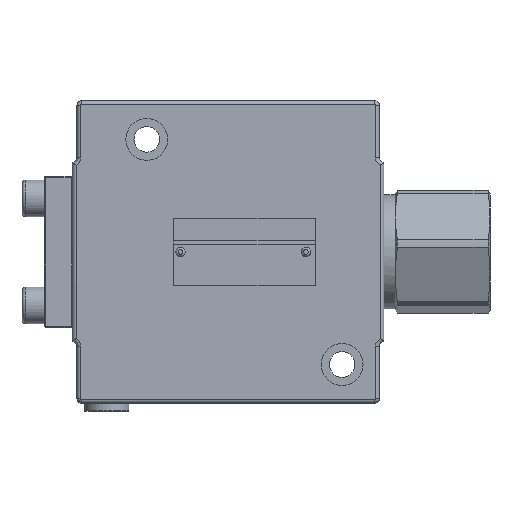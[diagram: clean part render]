
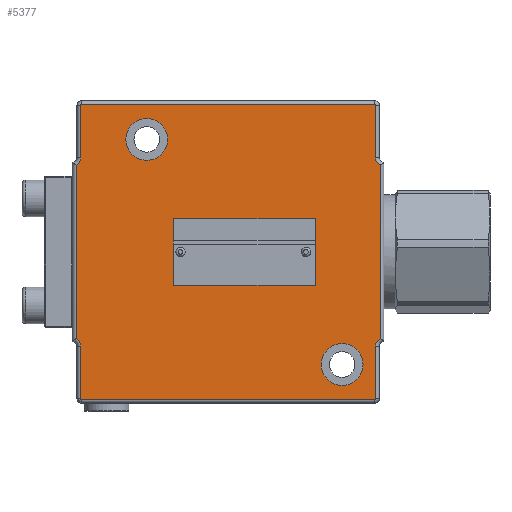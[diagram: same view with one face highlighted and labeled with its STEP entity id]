
A CAD part, front view. The second image highlights one B-rep face of the part: STEP entity #5377.
In plain terms, the highlighted planar face has unit normal (0, -1, 0).
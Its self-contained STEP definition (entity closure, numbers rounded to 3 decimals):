
#2514=LINE('',#19984,#3524);
#2515=LINE('',#19988,#3525);
#2516=LINE('',#19992,#3526);
#2517=LINE('',#19996,#3527);
#2518=LINE('',#20000,#3528);
#2519=LINE('',#20004,#3529);
#2520=LINE('',#20008,#3530);
#2521=LINE('',#20012,#3531);
#3524=VECTOR('',#14651,1.);
#3525=VECTOR('',#14654,1.);
#3526=VECTOR('',#14657,1.);
#3527=VECTOR('',#14660,1.);
#3528=VECTOR('',#14663,1.);
#3529=VECTOR('',#14666,1.);
#3530=VECTOR('',#14669,1.);
#3531=VECTOR('',#14672,1.);
#5377=ADVANCED_FACE('',(#6479,#6480,#6481,#6482,#6483),#6027,.F.);
#6027=PLANE('',#13661);
#6479=FACE_BOUND('',#6786,.T.);
#6480=FACE_BOUND('',#6787,.T.);
#6481=FACE_BOUND('',#6788,.T.);
#6482=FACE_BOUND('',#6789,.T.);
#6483=FACE_BOUND('',#6790,.T.);
#6786=EDGE_LOOP('',(#7689,#7690,#7691,#7692,#7693,#7694,#7695,#7696,#7697,
#7698,#7699,#7700,#7701,#7702,#7703,#7704));
#6787=EDGE_LOOP('',(#7705));
#6788=EDGE_LOOP('',(#7706));
#6789=EDGE_LOOP('',(#7707));
#6790=EDGE_LOOP('',(#7708));
#7689=ORIENTED_EDGE('',*,*,#11859,.T.);
#7690=ORIENTED_EDGE('',*,*,#11860,.T.);
#7691=ORIENTED_EDGE('',*,*,#11861,.T.);
#7692=ORIENTED_EDGE('',*,*,#11862,.T.);
#7693=ORIENTED_EDGE('',*,*,#11863,.T.);
#7694=ORIENTED_EDGE('',*,*,#11864,.T.);
#7695=ORIENTED_EDGE('',*,*,#11865,.T.);
#7696=ORIENTED_EDGE('',*,*,#11866,.T.);
#7697=ORIENTED_EDGE('',*,*,#11867,.T.);
#7698=ORIENTED_EDGE('',*,*,#11868,.T.);
#7699=ORIENTED_EDGE('',*,*,#11869,.T.);
#7700=ORIENTED_EDGE('',*,*,#11870,.T.);
#7701=ORIENTED_EDGE('',*,*,#11871,.T.);
#7702=ORIENTED_EDGE('',*,*,#11872,.T.);
#7703=ORIENTED_EDGE('',*,*,#11873,.T.);
#7704=ORIENTED_EDGE('',*,*,#11874,.T.);
#7705=ORIENTED_EDGE('',*,*,#11875,.T.);
#7706=ORIENTED_EDGE('',*,*,#11876,.T.);
#7707=ORIENTED_EDGE('',*,*,#11877,.F.);
#7708=ORIENTED_EDGE('',*,*,#11878,.T.);
#10776=VERTEX_POINT('',#19982);
#10777=VERTEX_POINT('',#19983);
#10778=VERTEX_POINT('',#19985);
#10779=VERTEX_POINT('',#19987);
#10780=VERTEX_POINT('',#19989);
#10781=VERTEX_POINT('',#19991);
#10782=VERTEX_POINT('',#19993);
#10783=VERTEX_POINT('',#19995);
#10784=VERTEX_POINT('',#19997);
#10785=VERTEX_POINT('',#19999);
#10786=VERTEX_POINT('',#20001);
#10787=VERTEX_POINT('',#20003);
#10788=VERTEX_POINT('',#20005);
#10789=VERTEX_POINT('',#20007);
#10790=VERTEX_POINT('',#20009);
#10791=VERTEX_POINT('',#20011);
#10792=VERTEX_POINT('',#20014);
#10793=VERTEX_POINT('',#20016);
#10794=VERTEX_POINT('',#20018);
#10795=VERTEX_POINT('',#20020);
#11859=EDGE_CURVE('',#10776,#10777,#13359,.T.);
#11860=EDGE_CURVE('',#10777,#10778,#2514,.T.);
#11861=EDGE_CURVE('',#10778,#10779,#13360,.T.);
#11862=EDGE_CURVE('',#10779,#10780,#2515,.T.);
#11863=EDGE_CURVE('',#10780,#10781,#13361,.T.);
#11864=EDGE_CURVE('',#10781,#10782,#2516,.T.);
#11865=EDGE_CURVE('',#10782,#10783,#13362,.T.);
#11866=EDGE_CURVE('',#10783,#10784,#2517,.T.);
#11867=EDGE_CURVE('',#10784,#10785,#13363,.T.);
#11868=EDGE_CURVE('',#10785,#10786,#2518,.T.);
#11869=EDGE_CURVE('',#10786,#10787,#13364,.T.);
#11870=EDGE_CURVE('',#10787,#10788,#2519,.T.);
#11871=EDGE_CURVE('',#10788,#10789,#13365,.T.);
#11872=EDGE_CURVE('',#10789,#10790,#2520,.T.);
#11873=EDGE_CURVE('',#10790,#10791,#13366,.T.);
#11874=EDGE_CURVE('',#10791,#10776,#2521,.T.);
#11875=EDGE_CURVE('',#10792,#10792,#13367,.T.);
#11876=EDGE_CURVE('',#10793,#10793,#13368,.T.);
#11877=EDGE_CURVE('',#10794,#10794,#13369,.T.);
#11878=EDGE_CURVE('',#10795,#10795,#13370,.T.);
#13359=CIRCLE('',#13649,0.4);
#13360=CIRCLE('',#13650,0.4);
#13361=CIRCLE('',#13651,3.6);
#13362=CIRCLE('',#13652,3.6);
#13363=CIRCLE('',#13653,0.4);
#13364=CIRCLE('',#13654,0.4);
#13365=CIRCLE('',#13655,3.6);
#13366=CIRCLE('',#13656,3.6);
#13367=CIRCLE('',#13657,0.9);
#13368=CIRCLE('',#13658,0.9);
#13369=CIRCLE('',#13659,9.);
#13370=CIRCLE('',#13660,9.);
#13649=AXIS2_PLACEMENT_3D('',#19981,#14649,#14650);
#13650=AXIS2_PLACEMENT_3D('',#19986,#14652,#14653);
#13651=AXIS2_PLACEMENT_3D('',#19990,#14655,#14656);
#13652=AXIS2_PLACEMENT_3D('',#19994,#14658,#14659);
#13653=AXIS2_PLACEMENT_3D('',#19998,#14661,#14662);
#13654=AXIS2_PLACEMENT_3D('',#20002,#14664,#14665);
#13655=AXIS2_PLACEMENT_3D('',#20006,#14667,#14668);
#13656=AXIS2_PLACEMENT_3D('',#20010,#14670,#14671);
#13657=AXIS2_PLACEMENT_3D('',#20013,#14673,#14674);
#13658=AXIS2_PLACEMENT_3D('',#20015,#14675,#14676);
#13659=AXIS2_PLACEMENT_3D('',#20017,#14677,#14678);
#13660=AXIS2_PLACEMENT_3D('',#20019,#14679,#14680);
#13661=AXIS2_PLACEMENT_3D('',#20021,#14681,#14682);
#14649=DIRECTION('',(0.,-1.,0.));
#14650=DIRECTION('',(0.,0.,1.));
#14651=DIRECTION('',(-1.,0.,0.));
#14652=DIRECTION('',(0.,-1.,0.));
#14653=DIRECTION('',(0.,0.,1.));
#14654=DIRECTION('',(0.,0.,-1.));
#14655=DIRECTION('',(0.,1.,0.));
#14656=DIRECTION('',(0.,0.,1.));
#14657=DIRECTION('',(0.,0.,-1.));
#14658=DIRECTION('',(0.,1.,0.));
#14659=DIRECTION('',(0.,0.,1.));
#14660=DIRECTION('',(0.,0.,-1.));
#14661=DIRECTION('',(0.,-1.,0.));
#14662=DIRECTION('',(0.,0.,1.));
#14663=DIRECTION('',(1.,0.,0.));
#14664=DIRECTION('',(0.,-1.,0.));
#14665=DIRECTION('',(0.,0.,1.));
#14666=DIRECTION('',(0.,0.,1.));
#14667=DIRECTION('',(0.,1.,0.));
#14668=DIRECTION('',(0.,0.,1.));
#14669=DIRECTION('',(0.,0.,1.));
#14670=DIRECTION('',(0.,1.,0.));
#14671=DIRECTION('',(0.,0.,1.));
#14672=DIRECTION('',(0.,0.,1.));
#14673=DIRECTION('',(0.,1.,0.));
#14674=DIRECTION('',(0.,0.,1.));
#14675=DIRECTION('',(0.,1.,0.));
#14676=DIRECTION('',(0.,0.,1.));
#14677=DIRECTION('',(0.,-1.,0.));
#14678=DIRECTION('',(1.,0.,0.));
#14679=DIRECTION('',(0.,1.,0.));
#14680=DIRECTION('',(1.,0.,0.));
#14681=DIRECTION('',(0.,1.,0.));
#14682=DIRECTION('',(1.,0.,0.));
#19981=CARTESIAN_POINT('',(766.938,246.116,63.));
#19982=CARTESIAN_POINT('',(767.338,246.116,63.));
#19983=CARTESIAN_POINT('',(766.938,246.116,63.4));
#19984=CARTESIAN_POINT('',(640.938,246.116,63.4));
#19985=CARTESIAN_POINT('',(640.938,246.116,63.4));
#19986=CARTESIAN_POINT('',(640.938,246.116,63.));
#19987=CARTESIAN_POINT('',(640.538,246.116,63.));
#19988=CARTESIAN_POINT('',(640.538,246.116,40.5));
#19989=CARTESIAN_POINT('',(640.538,246.116,40.5));
#19990=CARTESIAN_POINT('',(636.938,246.116,40.5));
#19991=CARTESIAN_POINT('',(638.538,246.116,37.275));
#19992=CARTESIAN_POINT('',(638.538,246.116,-38.5));
#19993=CARTESIAN_POINT('',(638.538,246.116,-37.275));
#19994=CARTESIAN_POINT('',(636.938,246.116,-40.5));
#19995=CARTESIAN_POINT('',(640.538,246.116,-40.5));
#19996=CARTESIAN_POINT('',(640.538,246.116,-63.));
#19997=CARTESIAN_POINT('',(640.538,246.116,-63.));
#19998=CARTESIAN_POINT('',(640.938,246.116,-63.));
#19999=CARTESIAN_POINT('',(640.938,246.116,-63.4));
#20000=CARTESIAN_POINT('',(766.938,246.116,-63.4));
#20001=CARTESIAN_POINT('',(766.938,246.116,-63.4));
#20002=CARTESIAN_POINT('',(766.938,246.116,-63.));
#20003=CARTESIAN_POINT('',(767.338,246.116,-63.));
#20004=CARTESIAN_POINT('',(767.338,246.116,-40.5));
#20005=CARTESIAN_POINT('',(767.338,246.116,-40.5));
#20006=CARTESIAN_POINT('',(770.938,246.116,-40.5));
#20007=CARTESIAN_POINT('',(769.338,246.116,-37.275));
#20008=CARTESIAN_POINT('',(769.338,246.116,38.5));
#20009=CARTESIAN_POINT('',(769.338,246.116,37.275));
#20010=CARTESIAN_POINT('',(770.938,246.116,40.5));
#20011=CARTESIAN_POINT('',(767.338,246.116,40.5));
#20012=CARTESIAN_POINT('',(767.338,246.116,63.));
#20013=CARTESIAN_POINT('',(737.439,246.116,0.));
#20014=CARTESIAN_POINT('',(737.439,246.116,0.9));
#20015=CARTESIAN_POINT('',(683.439,246.116,0.));
#20016=CARTESIAN_POINT('',(683.439,246.116,0.9));
#20017=CARTESIAN_POINT('',(752.939,246.116,-48.4));
#20018=CARTESIAN_POINT('',(761.939,246.116,-48.4));
#20019=CARTESIAN_POINT('',(668.938,246.116,48.4));
#20020=CARTESIAN_POINT('',(677.938,246.116,48.4));
#20021=CARTESIAN_POINT('',(766.938,246.116,63.));
